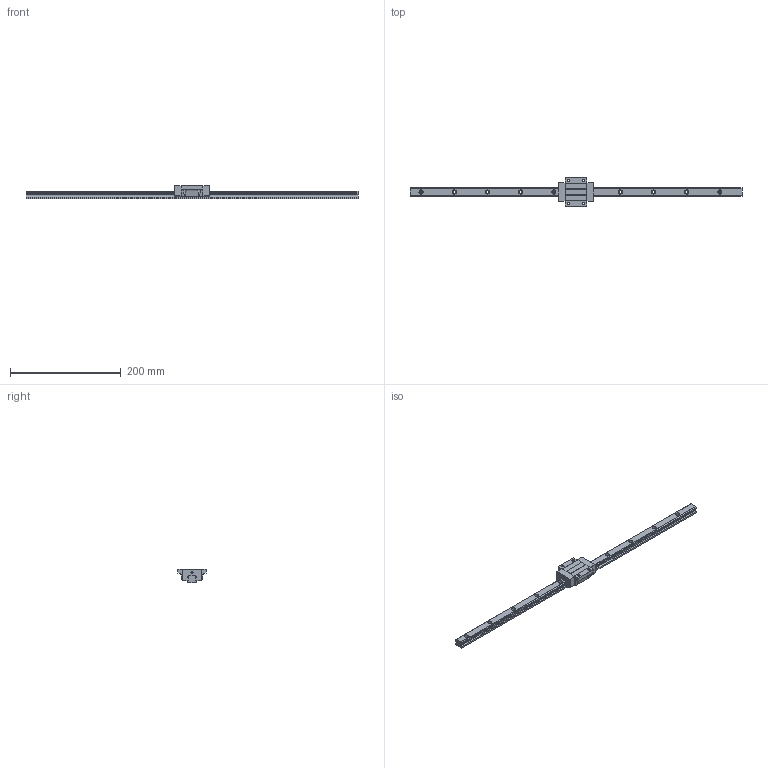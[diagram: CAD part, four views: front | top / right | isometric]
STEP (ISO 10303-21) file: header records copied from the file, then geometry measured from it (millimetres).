
FILE_DESCRIPTION (( 'STEP AP203' ), '1' );
FILE_NAME ('TRS15FN-ZN-§ï.STEP', '2023-08-31T05:54:25', ( '' ), ( '' ), 'SwSTEP 2.0', 'SolidWorks 2022', '' );
FILE_SCHEMA (( 'CONFIG_CONTROL_DESIGN' ));
Length unit declared in the file: millimetre
Products named in the file (1): TRS15FN-ZN-改
Bounding box: 600 x 52 x 24 mm (x, y, z)
Volume: 142587.3 mm3; surface area: 46918.1 mm2
Topology: 1 solids, 1 shells, 207 faces, 570 edges, 370 vertices
Faces by surface type: cylinder 108, plane 95, sphere 4
Entity records: 7052 total; most frequent: CARTESIAN_POINT 1519, DIRECTION 1166, ORIENTED_EDGE 1132, EDGE_CURVE 566, AXIS2_PLACEMENT_3D 414, VERTEX_POINT 370, LINE 338, VECTOR 338
